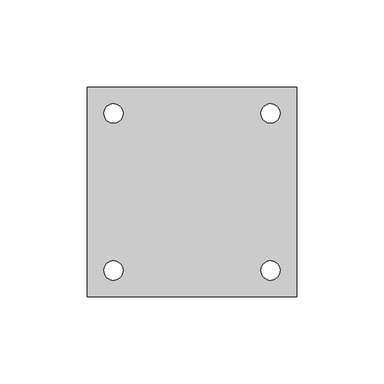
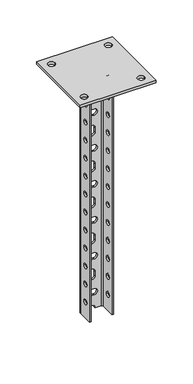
"""IFC4 building model written with IfcOpenShell, lengths in millimetres: proxy geometry, КМ Профиль_Универсальная потолочная стойка усиленная UPTU : UPTU400."""

from ifc_helpers import new_model, si_unit, point, frame, frame_2d, origin, place, context, project, spatial, polyline, circle_curve, trimmed, segment, composite_curve, outline, extrude, source, transform, mapped, element, save
from ifc_brep_helpers import plane_surface, cylinder_surface, revolved_surface, advanced_brep


def generic_models_a3f2ea63(model_context):
    return source(origin(), model_context, "Body", "SolidModel", [
        advanced_brep(
        [(19.0, -14.5, -4.0), (19.0, 10.0, -4.0), (14.5, 14.5, -4.0), (-14.5, 14.5, -4.0), (-19.0, 10.0, -4.0), (-19.0, -14.5, -4.0), (-16.5, -14.5, -4.0), (-16.5, 10.0, -4.0), (-14.5, 12.0, -4.0), (14.5, 12.0, -4.0), (16.5, 10.0, -4.0), (16.5, -14.5, -4.0), (19.0, 10.0, -404.0), (19.0, -14.5, -404.0), (16.5, -14.5, -404.0), (16.5, 10.0, -404.0), (14.5, 12.0, -404.0), (5.0, 12.0, -404.0), (5.0, 14.5, -404.0), (14.5, 14.5, -404.0), (-19.0, 10.0, -404.0), (-14.5, 14.5, -404.0), (-5.0, 14.5, -404.0), (-5.0, 12.0, -404.0), (-14.5, 12.0, -404.0), (-16.5, 10.0, -404.0), (-16.5, -14.5, -404.0), (-19.0, -14.5, -404.0), (19.0, -7.0, -47.0), (19.0, 1.0, -47.0), (19.0, -7.0, -77.0), (19.0, 1.0, -77.0), (19.0, -7.0, -107.0), (19.0, 1.0, -107.0), (19.0, -7.0, -137.0), (19.0, 1.0, -137.0), (19.0, -7.0, -167.0), (19.0, 1.0, -167.0), (19.0, -7.0, -197.0), (19.0, 1.0, -197.0), (19.0, -7.0, -227.0), (19.0, 1.0, -227.0), (19.0, -7.0, -257.0), (19.0, 1.0, -257.0), (19.0, -7.0, -287.0), (19.0, 1.0, -287.0), (19.0, -7.0, -317.0), (19.0, 1.0, -317.0), (19.0, -7.0, -347.0), (19.0, 1.0, -347.0), (19.0, -7.0, -377.0), (19.0, 1.0, -377.0), (19.0, -7.0, -17.0), (19.0, 1.0, -17.0), (5.0, 14.5, -403.5), (-5.0, 14.5, -403.5), (3.5, 14.5, -132.0), (-3.5, 14.5, -132.0), (-3.5, 14.5, -142.0), (3.5, 14.5, -142.0), (3.5, 14.5, -192.0), (-3.5, 14.5, -192.0), (-3.5, 14.5, -202.0), (3.5, 14.5, -202.0), (3.5, 14.5, -72.0), (-3.5, 14.5, -72.0), (-3.5, 14.5, -82.0), (3.5, 14.5, -82.0), (-5.0, 14.5, -103.5), (-5.0, 14.5, -110.5), (5.0, 14.5, -110.5), (5.0, 14.5, -103.5), (-5.0, 14.5, -163.5), (-5.0, 14.5, -170.5), (5.0, 14.5, -170.5), (5.0, 14.5, -163.5), (-5.0, 14.5, -223.5), (-5.0, 14.5, -230.5), (5.0, 14.5, -230.5), (5.0, 14.5, -223.5), (3.5, 14.5, -252.0), (-3.5, 14.5, -252.0), (-3.5, 14.5, -262.0), (3.5, 14.5, -262.0), (3.5, 14.5, -312.0), (-3.5, 14.5, -312.0), (-3.5, 14.5, -322.0), (3.5, 14.5, -322.0), (3.5, 14.5, -372.0), (-3.5, 14.5, -372.0), (-3.5, 14.5, -382.0), (3.5, 14.5, -382.0), (-5.0, 14.5, -283.5), (-5.0, 14.5, -290.5), (5.0, 14.5, -290.5), (5.0, 14.5, -283.5), (-5.0, 14.5, -343.5), (-5.0, 14.5, -350.5), (5.0, 14.5, -350.5), (5.0, 14.5, -343.5), (-5.0, 14.5, -43.5), (-5.0, 14.5, -50.5), (5.0, 14.5, -50.5), (5.0, 14.5, -43.5), (3.5, 14.5, -12.0), (-3.5, 14.5, -12.0), (-3.5, 14.5, -22.0), (3.5, 14.5, -22.0), (-19.0, -7.0, -17.0), (-19.0, 1.0, -17.0), (-19.0, -7.0, -47.0), (-19.0, 1.0, -47.0), (-19.0, -7.0, -77.0), (-19.0, 1.0, -77.0), (-19.0, -7.0, -107.0), (-19.0, 1.0, -107.0), (-19.0, -7.0, -137.0), (-19.0, 1.0, -137.0), (-19.0, -7.0, -167.0), (-19.0, 1.0, -167.0), (-19.0, -7.0, -197.0), (-19.0, 1.0, -197.0), (-19.0, -7.0, -227.0), (-19.0, 1.0, -227.0), (-19.0, -7.0, -257.0), (-19.0, 1.0, -257.0), (-19.0, -7.0, -287.0), (-19.0, 1.0, -287.0), (-19.0, -7.0, -317.0), (-19.0, 1.0, -317.0), (-19.0, -7.0, -347.0), (-19.0, 1.0, -347.0), (-19.0, -7.0, -377.0), (-19.0, 1.0, -377.0), (-16.5, 1.0, -17.0), (-16.5, -7.0, -17.0), (-16.5, 1.0, -47.0), (-16.5, -7.0, -47.0), (-16.5, 1.0, -77.0), (-16.5, -7.0, -77.0), (-16.5, 1.0, -107.0), (-16.5, -7.0, -107.0), (-16.5, 1.0, -137.0), (-16.5, -7.0, -137.0), (-16.5, 1.0, -167.0), (-16.5, -7.0, -167.0), (-16.5, 1.0, -197.0), (-16.5, -7.0, -197.0), (-16.5, 1.0, -227.0), (-16.5, -7.0, -227.0), (-16.5, 1.0, -257.0), (-16.5, -7.0, -257.0), (-16.5, 1.0, -287.0), (-16.5, -7.0, -287.0), (-16.5, 1.0, -317.0), (-16.5, -7.0, -317.0), (-16.5, 1.0, -347.0), (-16.5, -7.0, -347.0), (-16.5, 1.0, -377.0), (-16.5, -7.0, -377.0), (-5.0, 12.0, -403.5), (5.0, 12.0, -403.5), (-3.5, 12.0, -132.0), (3.5, 12.0, -132.0), (3.5, 12.0, -142.0), (-3.5, 12.0, -142.0), (-3.5, 12.0, -192.0), (3.5, 12.0, -192.0), (3.5, 12.0, -202.0), (-3.5, 12.0, -202.0), (-3.5, 12.0, -72.0), (3.5, 12.0, -72.0), (3.5, 12.0, -82.0), (-3.5, 12.0, -82.0), (-5.0, 12.0, -110.5), (-5.0, 12.0, -103.5), (5.0, 12.0, -103.5), (5.0, 12.0, -110.5), (-5.0, 12.0, -170.5), (-5.0, 12.0, -163.5), (5.0, 12.0, -163.5), (5.0, 12.0, -170.5), (-5.0, 12.0, -230.5), (-5.0, 12.0, -223.5), (5.0, 12.0, -223.5), (5.0, 12.0, -230.5), (-3.5, 12.0, -252.0), (3.5, 12.0, -252.0), (3.5, 12.0, -262.0), (-3.5, 12.0, -262.0), (-3.5, 12.0, -312.0), (3.5, 12.0, -312.0), (3.5, 12.0, -322.0), (-3.5, 12.0, -322.0), (-3.5, 12.0, -372.0), (3.5, 12.0, -372.0), (3.5, 12.0, -382.0), (-3.5, 12.0, -382.0), (-5.0, 12.0, -290.5), (-5.0, 12.0, -283.5), (5.0, 12.0, -283.5), (5.0, 12.0, -290.5), (-5.0, 12.0, -350.5), (-5.0, 12.0, -343.5), (5.0, 12.0, -343.5), (5.0, 12.0, -350.5), (-5.0, 12.0, -50.5), (-5.0, 12.0, -43.5), (5.0, 12.0, -43.5), (5.0, 12.0, -50.5), (-3.5, 12.0, -12.0), (3.5, 12.0, -12.0), (3.5, 12.0, -22.0), (-3.5, 12.0, -22.0), (16.5, 1.0, -47.0), (16.5, -7.0, -47.0), (16.5, 1.0, -77.0), (16.5, -7.0, -77.0), (16.5, 1.0, -107.0), (16.5, -7.0, -107.0), (16.5, 1.0, -137.0), (16.5, -7.0, -137.0), (16.5, 1.0, -167.0), (16.5, -7.0, -167.0), (16.5, 1.0, -197.0), (16.5, -7.0, -197.0), (16.5, 1.0, -227.0), (16.5, -7.0, -227.0), (16.5, 1.0, -257.0), (16.5, -7.0, -257.0), (16.5, 1.0, -287.0), (16.5, -7.0, -287.0), (16.5, 1.0, -317.0), (16.5, -7.0, -317.0), (16.5, 1.0, -347.0), (16.5, -7.0, -347.0), (16.5, 1.0, -377.0), (16.5, -7.0, -377.0), (16.5, 1.0, -17.0), (16.5, -7.0, -17.0)],
        [
            (0, 1),
            (1, 2, circle_curve(frame((14.5, 10.0, -4.0), z_axis=(0.0, 0.0, 1.0), x_axis=(1.0, 0.0, 0.0)), 4.5)),
            (2, 3),
            (3, 4, circle_curve(frame((-14.5, 10.0, -4.0), z_axis=(0.0, 0.0, 1.0), x_axis=(1.0, 0.0, 0.0)), 4.5)),
            (4, 5),
            (5, 6),
            (6, 7),
            (7, 8, circle_curve(frame((-14.5, 10.0, -4.0), z_axis=(0.0, 0.0, -1.0), x_axis=(1.0, 0.0, 0.0)), 2.0)),
            (8, 9),
            (9, 10, circle_curve(frame((14.5, 10.0, -4.0), z_axis=(0.0, 0.0, -1.0), x_axis=(1.0, 0.0, 0.0)), 2.0)),
            (10, 11),
            (11, 0),
            (12, 13),
            (13, 14),
            (14, 15),
            (15, 16, circle_curve(frame((14.5, 10.0, -404.0), z_axis=(0.0, 0.0, 1.0), x_axis=(1.0, 0.0, 0.0)), 2.0)),
            (16, 17),
            (17, 18),
            (18, 19),
            (19, 12, circle_curve(frame((14.5, 10.0, -404.0), z_axis=(0.0, 0.0, -1.0), x_axis=(1.0, 0.0, 0.0)), 4.5)),
            (20, 21, circle_curve(frame((-14.5, 10.0, -404.0), z_axis=(0.0, 0.0, -1.0), x_axis=(1.0, 0.0, 0.0)), 4.5)),
            (21, 22),
            (22, 23),
            (23, 24),
            (24, 25, circle_curve(frame((-14.5, 10.0, -404.0), z_axis=(0.0, 0.0, 1.0), x_axis=(1.0, 0.0, 0.0)), 2.0)),
            (25, 26),
            (26, 27),
            (27, 20),
            (0, 13),
            (12, 1),
            (28, 29, circle_curve(frame((19.0, -3.0, -47.0), z_axis=(-1.0, 0.0, 0.0), x_axis=(0.0, -1.0, 0.0)), 4.0)),
            (29, 28, circle_curve(frame((19.0, -3.0, -47.0), z_axis=(-1.0, 0.0, 0.0), x_axis=(0.0, -1.0, 0.0)), 4.0)),
            (30, 31, circle_curve(frame((19.0, -3.0, -77.0), z_axis=(-1.0, 0.0, 0.0), x_axis=(0.0, -1.0, 0.0)), 4.0)),
            (31, 30, circle_curve(frame((19.0, -3.0, -77.0), z_axis=(-1.0, 0.0, 0.0), x_axis=(0.0, -1.0, 0.0)), 4.0)),
            (32, 33, circle_curve(frame((19.0, -3.0, -107.0), z_axis=(-1.0, 0.0, 0.0), x_axis=(0.0, -1.0, 0.0)), 4.0)),
            (33, 32, circle_curve(frame((19.0, -3.0, -107.0), z_axis=(-1.0, 0.0, 0.0), x_axis=(0.0, -1.0, 0.0)), 4.0)),
            (34, 35, circle_curve(frame((19.0, -3.0, -137.0), z_axis=(-1.0, 0.0, 0.0), x_axis=(0.0, -1.0, 0.0)), 4.0)),
            (35, 34, circle_curve(frame((19.0, -3.0, -137.0), z_axis=(-1.0, 0.0, 0.0), x_axis=(0.0, -1.0, 0.0)), 4.0)),
            (36, 37, circle_curve(frame((19.0, -3.0, -167.0), z_axis=(-1.0, 0.0, 0.0), x_axis=(0.0, -1.0, 0.0)), 4.0)),
            (37, 36, circle_curve(frame((19.0, -3.0, -167.0), z_axis=(-1.0, 0.0, 0.0), x_axis=(0.0, -1.0, 0.0)), 4.0)),
            (38, 39, circle_curve(frame((19.0, -3.0, -197.0), z_axis=(-1.0, 0.0, 0.0), x_axis=(0.0, -1.0, 0.0)), 4.0)),
            (39, 38, circle_curve(frame((19.0, -3.0, -197.0), z_axis=(-1.0, 0.0, 0.0), x_axis=(0.0, -1.0, 0.0)), 4.0)),
            (40, 41, circle_curve(frame((19.0, -3.0, -227.0), z_axis=(-1.0, 0.0, 0.0), x_axis=(0.0, -1.0, 0.0)), 4.0)),
            (41, 40, circle_curve(frame((19.0, -3.0, -227.0), z_axis=(-1.0, 0.0, 0.0), x_axis=(0.0, -1.0, 0.0)), 4.0)),
            (42, 43, circle_curve(frame((19.0, -3.0, -257.0), z_axis=(-1.0, 0.0, 0.0), x_axis=(0.0, -1.0, 0.0)), 4.0)),
            (43, 42, circle_curve(frame((19.0, -3.0, -257.0), z_axis=(-1.0, 0.0, 0.0), x_axis=(0.0, -1.0, 0.0)), 4.0)),
            (44, 45, circle_curve(frame((19.0, -3.0, -287.0), z_axis=(-1.0, 0.0, 0.0), x_axis=(0.0, -1.0, 0.0)), 4.0)),
            (45, 44, circle_curve(frame((19.0, -3.0, -287.0), z_axis=(-1.0, 0.0, 0.0), x_axis=(0.0, -1.0, 0.0)), 4.0)),
            (46, 47, circle_curve(frame((19.0, -3.0, -317.0), z_axis=(-1.0, 0.0, 0.0), x_axis=(0.0, -1.0, 0.0)), 4.0)),
            (47, 46, circle_curve(frame((19.0, -3.0, -317.0), z_axis=(-1.0, 0.0, 0.0), x_axis=(0.0, -1.0, 0.0)), 4.0)),
            (48, 49, circle_curve(frame((19.0, -3.0, -347.0), z_axis=(-1.0, 0.0, 0.0), x_axis=(0.0, -1.0, 0.0)), 4.0)),
            (49, 48, circle_curve(frame((19.0, -3.0, -347.0), z_axis=(-1.0, 0.0, 0.0), x_axis=(0.0, -1.0, 0.0)), 4.0)),
            (50, 51, circle_curve(frame((19.0, -3.0, -377.0), z_axis=(-1.0, 0.0, 0.0), x_axis=(0.0, -1.0, 0.0)), 4.0)),
            (51, 50, circle_curve(frame((19.0, -3.0, -377.0), z_axis=(-1.0, 0.0, 0.0), x_axis=(0.0, -1.0, 0.0)), 4.0)),
            (52, 53, circle_curve(frame((19.0, -3.0, -17.0), z_axis=(-1.0, 0.0, 0.0), x_axis=(0.0, -1.0, 0.0)), 4.0)),
            (53, 52, circle_curve(frame((19.0, -3.0, -17.0), z_axis=(-1.0, 0.0, 0.0), x_axis=(0.0, -1.0, 0.0)), 4.0)),
            (19, 2),
            (18, 54),
            (54, 55, circle_curve(frame((0.0, 14.5, -403.5), z_axis=(0.0, -1.0, 0.0), x_axis=(0.0, 0.0, -1.0)), 5.0)),
            (55, 22),
            (21, 3),
            (56, 57),
            (57, 58, circle_curve(frame((-3.5, 14.5, -137.0), z_axis=(0.0, -1.0, 0.0), x_axis=(-1.0, 0.0, 0.0)), 5.0)),
            (58, 59),
            (59, 56, circle_curve(frame((3.5, 14.5, -137.0), z_axis=(0.0, -1.0, 0.0), x_axis=(-1.0, 0.0, 0.0)), 5.0)),
            (60, 61),
            (61, 62, circle_curve(frame((-3.5, 14.5, -197.0), z_axis=(0.0, -1.0, 0.0), x_axis=(-1.0, 0.0, 0.0)), 5.0)),
            (62, 63),
            (63, 60, circle_curve(frame((3.5, 14.5, -197.0), z_axis=(0.0, -1.0, 0.0), x_axis=(-1.0, 0.0, 0.0)), 5.0)),
            (64, 65),
            (65, 66, circle_curve(frame((-3.5, 14.5, -77.0), z_axis=(0.0, -1.0, 0.0), x_axis=(-1.0, 0.0, 0.0)), 5.0)),
            (66, 67),
            (67, 64, circle_curve(frame((3.5, 14.5, -77.0), z_axis=(0.0, -1.0, 0.0), x_axis=(-1.0, 0.0, 0.0)), 5.0)),
            (68, 69),
            (69, 70, circle_curve(frame((0.0, 14.5, -110.5), z_axis=(0.0, -1.0, 0.0), x_axis=(0.0, 0.0, -1.0)), 5.0)),
            (70, 71),
            (71, 68, circle_curve(frame((0.0, 14.5, -103.5), z_axis=(0.0, -1.0, 0.0), x_axis=(0.0, 0.0, -1.0)), 5.0)),
            (72, 73),
            (73, 74, circle_curve(frame((0.0, 14.5, -170.5), z_axis=(0.0, -1.0, 0.0), x_axis=(0.0, 0.0, -1.0)), 5.0)),
            (74, 75),
            (75, 72, circle_curve(frame((0.0, 14.5, -163.5), z_axis=(0.0, -1.0, 0.0), x_axis=(0.0, 0.0, -1.0)), 5.0)),
            (76, 77),
            (77, 78, circle_curve(frame((0.0, 14.5, -230.5), z_axis=(0.0, -1.0, 0.0), x_axis=(0.0, 0.0, -1.0)), 5.0)),
            (78, 79),
            (79, 76, circle_curve(frame((0.0, 14.5, -223.5), z_axis=(0.0, -1.0, 0.0), x_axis=(0.0, 0.0, -1.0)), 5.0)),
            (80, 81),
            (81, 82, circle_curve(frame((-3.5, 14.5, -257.0), z_axis=(0.0, -1.0, 0.0), x_axis=(-1.0, 0.0, 0.0)), 5.0)),
            (82, 83),
            (83, 80, circle_curve(frame((3.5, 14.5, -257.0), z_axis=(0.0, -1.0, 0.0), x_axis=(-1.0, 0.0, 0.0)), 5.0)),
            (84, 85),
            (85, 86, circle_curve(frame((-3.5, 14.5, -317.0), z_axis=(0.0, -1.0, 0.0), x_axis=(-1.0, 0.0, 0.0)), 5.0)),
            (86, 87),
            (87, 84, circle_curve(frame((3.5, 14.5, -317.0), z_axis=(0.0, -1.0, 0.0), x_axis=(-1.0, 0.0, 0.0)), 5.0)),
            (88, 89),
            (89, 90, circle_curve(frame((-3.5, 14.5, -377.0), z_axis=(0.0, -1.0, 0.0), x_axis=(-1.0, 0.0, 0.0)), 5.0)),
            (90, 91),
            (91, 88, circle_curve(frame((3.5, 14.5, -377.0), z_axis=(0.0, -1.0, 0.0), x_axis=(-1.0, 0.0, 0.0)), 5.0)),
            (92, 93),
            (93, 94, circle_curve(frame((0.0, 14.5, -290.5), z_axis=(0.0, -1.0, 0.0), x_axis=(0.0, 0.0, -1.0)), 5.0)),
            (94, 95),
            (95, 92, circle_curve(frame((0.0, 14.5, -283.5), z_axis=(0.0, -1.0, 0.0), x_axis=(0.0, 0.0, -1.0)), 5.0)),
            (96, 97),
            (97, 98, circle_curve(frame((0.0, 14.5, -350.5), z_axis=(0.0, -1.0, 0.0), x_axis=(0.0, 0.0, -1.0)), 5.0)),
            (98, 99),
            (99, 96, circle_curve(frame((0.0, 14.5, -343.5), z_axis=(0.0, -1.0, 0.0), x_axis=(0.0, 0.0, -1.0)), 5.0)),
            (100, 101),
            (101, 102, circle_curve(frame((0.0, 14.5, -50.5), z_axis=(0.0, -1.0, 0.0), x_axis=(0.0, 0.0, -1.0)), 5.0)),
            (102, 103),
            (103, 100, circle_curve(frame((0.0, 14.5, -43.5), z_axis=(0.0, -1.0, 0.0), x_axis=(0.0, 0.0, -1.0)), 5.0)),
            (104, 105),
            (105, 106, circle_curve(frame((-3.5, 14.5, -17.0), z_axis=(0.0, -1.0, 0.0), x_axis=(-1.0, 0.0, 0.0)), 5.0)),
            (106, 107),
            (107, 104, circle_curve(frame((3.5, 14.5, -17.0), z_axis=(0.0, -1.0, 0.0), x_axis=(-1.0, 0.0, 0.0)), 5.0)),
            (20, 4),
            (27, 5),
            (108, 109, circle_curve(frame((-19.0, -3.0, -17.0), z_axis=(1.0, 0.0, 0.0), x_axis=(0.0, -1.0, 0.0)), 4.0)),
            (109, 108, circle_curve(frame((-19.0, -3.0, -17.0), z_axis=(1.0, 0.0, 0.0), x_axis=(0.0, -1.0, 0.0)), 4.0)),
            (110, 111, circle_curve(frame((-19.0, -3.0, -47.0), z_axis=(1.0, 0.0, 0.0), x_axis=(0.0, -1.0, 0.0)), 4.0)),
            (111, 110, circle_curve(frame((-19.0, -3.0, -47.0), z_axis=(1.0, 0.0, 0.0), x_axis=(0.0, -1.0, 0.0)), 4.0)),
            (112, 113, circle_curve(frame((-19.0, -3.0, -77.0), z_axis=(1.0, 0.0, 0.0), x_axis=(0.0, -1.0, 0.0)), 4.0)),
            (113, 112, circle_curve(frame((-19.0, -3.0, -77.0), z_axis=(1.0, 0.0, 0.0), x_axis=(0.0, -1.0, 0.0)), 4.0)),
            (114, 115, circle_curve(frame((-19.0, -3.0, -107.0), z_axis=(1.0, 0.0, 0.0), x_axis=(0.0, -1.0, 0.0)), 4.0)),
            (115, 114, circle_curve(frame((-19.0, -3.0, -107.0), z_axis=(1.0, 0.0, 0.0), x_axis=(0.0, -1.0, 0.0)), 4.0)),
            (116, 117, circle_curve(frame((-19.0, -3.0, -137.0), z_axis=(1.0, 0.0, 0.0), x_axis=(0.0, -1.0, 0.0)), 4.0)),
            (117, 116, circle_curve(frame((-19.0, -3.0, -137.0), z_axis=(1.0, 0.0, 0.0), x_axis=(0.0, -1.0, 0.0)), 4.0)),
            (118, 119, circle_curve(frame((-19.0, -3.0, -167.0), z_axis=(1.0, 0.0, 0.0), x_axis=(0.0, -1.0, 0.0)), 4.0)),
            (119, 118, circle_curve(frame((-19.0, -3.0, -167.0), z_axis=(1.0, 0.0, 0.0), x_axis=(0.0, -1.0, 0.0)), 4.0)),
            (120, 121, circle_curve(frame((-19.0, -3.0, -197.0), z_axis=(1.0, 0.0, 0.0), x_axis=(0.0, -1.0, 0.0)), 4.0)),
            (121, 120, circle_curve(frame((-19.0, -3.0, -197.0), z_axis=(1.0, 0.0, 0.0), x_axis=(0.0, -1.0, 0.0)), 4.0)),
            (122, 123, circle_curve(frame((-19.0, -3.0, -227.0), z_axis=(1.0, 0.0, 0.0), x_axis=(0.0, -1.0, 0.0)), 4.0)),
            (123, 122, circle_curve(frame((-19.0, -3.0, -227.0), z_axis=(1.0, 0.0, 0.0), x_axis=(0.0, -1.0, 0.0)), 4.0)),
            (124, 125, circle_curve(frame((-19.0, -3.0, -257.0), z_axis=(1.0, 0.0, 0.0), x_axis=(0.0, -1.0, 0.0)), 4.0)),
            (125, 124, circle_curve(frame((-19.0, -3.0, -257.0), z_axis=(1.0, 0.0, 0.0), x_axis=(0.0, -1.0, 0.0)), 4.0)),
            (126, 127, circle_curve(frame((-19.0, -3.0, -287.0), z_axis=(1.0, 0.0, 0.0), x_axis=(0.0, -1.0, 0.0)), 4.0)),
            (127, 126, circle_curve(frame((-19.0, -3.0, -287.0), z_axis=(1.0, 0.0, 0.0), x_axis=(0.0, -1.0, 0.0)), 4.0)),
            (128, 129, circle_curve(frame((-19.0, -3.0, -317.0), z_axis=(1.0, 0.0, 0.0), x_axis=(0.0, -1.0, 0.0)), 4.0)),
            (129, 128, circle_curve(frame((-19.0, -3.0, -317.0), z_axis=(1.0, 0.0, 0.0), x_axis=(0.0, -1.0, 0.0)), 4.0)),
            (130, 131, circle_curve(frame((-19.0, -3.0, -347.0), z_axis=(1.0, 0.0, 0.0), x_axis=(0.0, -1.0, 0.0)), 4.0)),
            (131, 130, circle_curve(frame((-19.0, -3.0, -347.0), z_axis=(1.0, 0.0, 0.0), x_axis=(0.0, -1.0, 0.0)), 4.0)),
            (132, 133, circle_curve(frame((-19.0, -3.0, -377.0), z_axis=(1.0, 0.0, 0.0), x_axis=(0.0, -1.0, 0.0)), 4.0)),
            (133, 132, circle_curve(frame((-19.0, -3.0, -377.0), z_axis=(1.0, 0.0, 0.0), x_axis=(0.0, -1.0, 0.0)), 4.0)),
            (26, 6),
            (25, 7),
            (134, 135, circle_curve(frame((-16.5, -3.0, -17.0), z_axis=(-1.0, 0.0, 0.0), x_axis=(0.0, -1.0, 0.0)), 4.0)),
            (135, 134, circle_curve(frame((-16.5, -3.0, -17.0), z_axis=(-1.0, 0.0, 0.0), x_axis=(0.0, -1.0, 0.0)), 4.0)),
            (136, 137, circle_curve(frame((-16.5, -3.0, -47.0), z_axis=(-1.0, 0.0, 0.0), x_axis=(0.0, -1.0, 0.0)), 4.0)),
            (137, 136, circle_curve(frame((-16.5, -3.0, -47.0), z_axis=(-1.0, 0.0, 0.0), x_axis=(0.0, -1.0, 0.0)), 4.0)),
            (138, 139, circle_curve(frame((-16.5, -3.0, -77.0), z_axis=(-1.0, 0.0, 0.0), x_axis=(0.0, -1.0, 0.0)), 4.0)),
            (139, 138, circle_curve(frame((-16.5, -3.0, -77.0), z_axis=(-1.0, 0.0, 0.0), x_axis=(0.0, -1.0, 0.0)), 4.0)),
            (140, 141, circle_curve(frame((-16.5, -3.0, -107.0), z_axis=(-1.0, 0.0, 0.0), x_axis=(0.0, -1.0, 0.0)), 4.0)),
            (141, 140, circle_curve(frame((-16.5, -3.0, -107.0), z_axis=(-1.0, 0.0, 0.0), x_axis=(0.0, -1.0, 0.0)), 4.0)),
            (142, 143, circle_curve(frame((-16.5, -3.0, -137.0), z_axis=(-1.0, 0.0, 0.0), x_axis=(0.0, -1.0, 0.0)), 4.0)),
            (143, 142, circle_curve(frame((-16.5, -3.0, -137.0), z_axis=(-1.0, 0.0, 0.0), x_axis=(0.0, -1.0, 0.0)), 4.0)),
            (144, 145, circle_curve(frame((-16.5, -3.0, -167.0), z_axis=(-1.0, 0.0, 0.0), x_axis=(0.0, -1.0, 0.0)), 4.0)),
            (145, 144, circle_curve(frame((-16.5, -3.0, -167.0), z_axis=(-1.0, 0.0, 0.0), x_axis=(0.0, -1.0, 0.0)), 4.0)),
            (146, 147, circle_curve(frame((-16.5, -3.0, -197.0), z_axis=(-1.0, 0.0, 0.0), x_axis=(0.0, -1.0, 0.0)), 4.0)),
            (147, 146, circle_curve(frame((-16.5, -3.0, -197.0), z_axis=(-1.0, 0.0, 0.0), x_axis=(0.0, -1.0, 0.0)), 4.0)),
            (148, 149, circle_curve(frame((-16.5, -3.0, -227.0), z_axis=(-1.0, 0.0, 0.0), x_axis=(0.0, -1.0, 0.0)), 4.0)),
            (149, 148, circle_curve(frame((-16.5, -3.0, -227.0), z_axis=(-1.0, 0.0, 0.0), x_axis=(0.0, -1.0, 0.0)), 4.0)),
            (150, 151, circle_curve(frame((-16.5, -3.0, -257.0), z_axis=(-1.0, 0.0, 0.0), x_axis=(0.0, -1.0, 0.0)), 4.0)),
            (151, 150, circle_curve(frame((-16.5, -3.0, -257.0), z_axis=(-1.0, 0.0, 0.0), x_axis=(0.0, -1.0, 0.0)), 4.0)),
            (152, 153, circle_curve(frame((-16.5, -3.0, -287.0), z_axis=(-1.0, 0.0, 0.0), x_axis=(0.0, -1.0, 0.0)), 4.0)),
            (153, 152, circle_curve(frame((-16.5, -3.0, -287.0), z_axis=(-1.0, 0.0, 0.0), x_axis=(0.0, -1.0, 0.0)), 4.0)),
            (154, 155, circle_curve(frame((-16.5, -3.0, -317.0), z_axis=(-1.0, 0.0, 0.0), x_axis=(0.0, -1.0, 0.0)), 4.0)),
            (155, 154, circle_curve(frame((-16.5, -3.0, -317.0), z_axis=(-1.0, 0.0, 0.0), x_axis=(0.0, -1.0, 0.0)), 4.0)),
            (156, 157, circle_curve(frame((-16.5, -3.0, -347.0), z_axis=(-1.0, 0.0, 0.0), x_axis=(0.0, -1.0, 0.0)), 4.0)),
            (157, 156, circle_curve(frame((-16.5, -3.0, -347.0), z_axis=(-1.0, 0.0, 0.0), x_axis=(0.0, -1.0, 0.0)), 4.0)),
            (158, 159, circle_curve(frame((-16.5, -3.0, -377.0), z_axis=(-1.0, 0.0, 0.0), x_axis=(0.0, -1.0, 0.0)), 4.0)),
            (159, 158, circle_curve(frame((-16.5, -3.0, -377.0), z_axis=(-1.0, 0.0, 0.0), x_axis=(0.0, -1.0, 0.0)), 4.0)),
            (24, 8),
            (23, 160),
            (160, 161, circle_curve(frame((0.0, 12.0, -403.5), z_axis=(0.0, 1.0, 0.0), x_axis=(0.0, 0.0, -1.0)), 5.0)),
            (161, 17),
            (16, 9),
            (162, 163),
            (163, 164, circle_curve(frame((3.5, 12.0, -137.0), z_axis=(0.0, 1.0, 0.0), x_axis=(-1.0, 0.0, 0.0)), 5.0)),
            (164, 165),
            (165, 162, circle_curve(frame((-3.5, 12.0, -137.0), z_axis=(0.0, 1.0, 0.0), x_axis=(-1.0, 0.0, 0.0)), 5.0)),
            (166, 167),
            (167, 168, circle_curve(frame((3.5, 12.0, -197.0), z_axis=(0.0, 1.0, 0.0), x_axis=(-1.0, 0.0, 0.0)), 5.0)),
            (168, 169),
            (169, 166, circle_curve(frame((-3.5, 12.0, -197.0), z_axis=(0.0, 1.0, 0.0), x_axis=(-1.0, 0.0, 0.0)), 5.0)),
            (170, 171),
            (171, 172, circle_curve(frame((3.5, 12.0, -77.0), z_axis=(0.0, 1.0, 0.0), x_axis=(-1.0, 0.0, 0.0)), 5.0)),
            (172, 173),
            (173, 170, circle_curve(frame((-3.5, 12.0, -77.0), z_axis=(0.0, 1.0, 0.0), x_axis=(-1.0, 0.0, 0.0)), 5.0)),
            (174, 175),
            (175, 176, circle_curve(frame((0.0, 12.0, -103.5), z_axis=(0.0, 1.0, 0.0), x_axis=(0.0, 0.0, -1.0)), 5.0)),
            (176, 177),
            (177, 174, circle_curve(frame((0.0, 12.0, -110.5), z_axis=(0.0, 1.0, 0.0), x_axis=(0.0, 0.0, -1.0)), 5.0)),
            (178, 179),
            (179, 180, circle_curve(frame((0.0, 12.0, -163.5), z_axis=(0.0, 1.0, 0.0), x_axis=(0.0, 0.0, -1.0)), 5.0)),
            (180, 181),
            (181, 178, circle_curve(frame((0.0, 12.0, -170.5), z_axis=(0.0, 1.0, 0.0), x_axis=(0.0, 0.0, -1.0)), 5.0)),
            (182, 183),
            (183, 184, circle_curve(frame((0.0, 12.0, -223.5), z_axis=(0.0, 1.0, 0.0), x_axis=(0.0, 0.0, -1.0)), 5.0)),
            (184, 185),
            (185, 182, circle_curve(frame((0.0, 12.0, -230.5), z_axis=(0.0, 1.0, 0.0), x_axis=(0.0, 0.0, -1.0)), 5.0)),
            (186, 187),
            (187, 188, circle_curve(frame((3.5, 12.0, -257.0), z_axis=(0.0, 1.0, 0.0), x_axis=(-1.0, 0.0, 0.0)), 5.0)),
            (188, 189),
            (189, 186, circle_curve(frame((-3.5, 12.0, -257.0), z_axis=(0.0, 1.0, 0.0), x_axis=(-1.0, 0.0, 0.0)), 5.0)),
            (190, 191),
            (191, 192, circle_curve(frame((3.5, 12.0, -317.0), z_axis=(0.0, 1.0, 0.0), x_axis=(-1.0, 0.0, 0.0)), 5.0)),
            (192, 193),
            (193, 190, circle_curve(frame((-3.5, 12.0, -317.0), z_axis=(0.0, 1.0, 0.0), x_axis=(-1.0, 0.0, 0.0)), 5.0)),
            (194, 195),
            (195, 196, circle_curve(frame((3.5, 12.0, -377.0), z_axis=(0.0, 1.0, 0.0), x_axis=(-1.0, 0.0, 0.0)), 5.0)),
            (196, 197),
            (197, 194, circle_curve(frame((-3.5, 12.0, -377.0), z_axis=(0.0, 1.0, 0.0), x_axis=(-1.0, 0.0, 0.0)), 5.0)),
            (198, 199),
            (199, 200, circle_curve(frame((0.0, 12.0, -283.5), z_axis=(0.0, 1.0, 0.0), x_axis=(0.0, 0.0, -1.0)), 5.0)),
            (200, 201),
            (201, 198, circle_curve(frame((0.0, 12.0, -290.5), z_axis=(0.0, 1.0, 0.0), x_axis=(0.0, 0.0, -1.0)), 5.0)),
            (202, 203),
            (203, 204, circle_curve(frame((0.0, 12.0, -343.5), z_axis=(0.0, 1.0, 0.0), x_axis=(0.0, 0.0, -1.0)), 5.0)),
            (204, 205),
            (205, 202, circle_curve(frame((0.0, 12.0, -350.5), z_axis=(0.0, 1.0, 0.0), x_axis=(0.0, 0.0, -1.0)), 5.0)),
            (206, 207),
            (207, 208, circle_curve(frame((0.0, 12.0, -43.5), z_axis=(0.0, 1.0, 0.0), x_axis=(0.0, 0.0, -1.0)), 5.0)),
            (208, 209),
            (209, 206, circle_curve(frame((0.0, 12.0, -50.5), z_axis=(0.0, 1.0, 0.0), x_axis=(0.0, 0.0, -1.0)), 5.0)),
            (210, 211),
            (211, 212, circle_curve(frame((3.5, 12.0, -17.0), z_axis=(0.0, 1.0, 0.0), x_axis=(-1.0, 0.0, 0.0)), 5.0)),
            (212, 213),
            (213, 210, circle_curve(frame((-3.5, 12.0, -17.0), z_axis=(0.0, 1.0, 0.0), x_axis=(-1.0, 0.0, 0.0)), 5.0)),
            (15, 10),
            (14, 11),
            (214, 215, circle_curve(frame((16.5, -3.0, -47.0), z_axis=(1.0, 0.0, 0.0), x_axis=(0.0, -1.0, 0.0)), 4.0)),
            (215, 214, circle_curve(frame((16.5, -3.0, -47.0), z_axis=(1.0, 0.0, 0.0), x_axis=(0.0, -1.0, 0.0)), 4.0)),
            (216, 217, circle_curve(frame((16.5, -3.0, -77.0), z_axis=(1.0, 0.0, 0.0), x_axis=(0.0, -1.0, 0.0)), 4.0)),
            (217, 216, circle_curve(frame((16.5, -3.0, -77.0), z_axis=(1.0, 0.0, 0.0), x_axis=(0.0, -1.0, 0.0)), 4.0)),
            (218, 219, circle_curve(frame((16.5, -3.0, -107.0), z_axis=(1.0, 0.0, 0.0), x_axis=(0.0, -1.0, 0.0)), 4.0)),
            (219, 218, circle_curve(frame((16.5, -3.0, -107.0), z_axis=(1.0, 0.0, 0.0), x_axis=(0.0, -1.0, 0.0)), 4.0)),
            (220, 221, circle_curve(frame((16.5, -3.0, -137.0), z_axis=(1.0, 0.0, 0.0), x_axis=(0.0, -1.0, 0.0)), 4.0)),
            (221, 220, circle_curve(frame((16.5, -3.0, -137.0), z_axis=(1.0, 0.0, 0.0), x_axis=(0.0, -1.0, 0.0)), 4.0)),
            (222, 223, circle_curve(frame((16.5, -3.0, -167.0), z_axis=(1.0, 0.0, 0.0), x_axis=(0.0, -1.0, 0.0)), 4.0)),
            (223, 222, circle_curve(frame((16.5, -3.0, -167.0), z_axis=(1.0, 0.0, 0.0), x_axis=(0.0, -1.0, 0.0)), 4.0)),
            (224, 225, circle_curve(frame((16.5, -3.0, -197.0), z_axis=(1.0, 0.0, 0.0), x_axis=(0.0, -1.0, 0.0)), 4.0)),
            (225, 224, circle_curve(frame((16.5, -3.0, -197.0), z_axis=(1.0, 0.0, 0.0), x_axis=(0.0, -1.0, 0.0)), 4.0)),
            (226, 227, circle_curve(frame((16.5, -3.0, -227.0), z_axis=(1.0, 0.0, 0.0), x_axis=(0.0, -1.0, 0.0)), 4.0)),
            (227, 226, circle_curve(frame((16.5, -3.0, -227.0), z_axis=(1.0, 0.0, 0.0), x_axis=(0.0, -1.0, 0.0)), 4.0)),
            (228, 229, circle_curve(frame((16.5, -3.0, -257.0), z_axis=(1.0, 0.0, 0.0), x_axis=(0.0, -1.0, 0.0)), 4.0)),
            (229, 228, circle_curve(frame((16.5, -3.0, -257.0), z_axis=(1.0, 0.0, 0.0), x_axis=(0.0, -1.0, 0.0)), 4.0)),
            (230, 231, circle_curve(frame((16.5, -3.0, -287.0), z_axis=(1.0, 0.0, 0.0), x_axis=(0.0, -1.0, 0.0)), 4.0)),
            (231, 230, circle_curve(frame((16.5, -3.0, -287.0), z_axis=(1.0, 0.0, 0.0), x_axis=(0.0, -1.0, 0.0)), 4.0)),
            (232, 233, circle_curve(frame((16.5, -3.0, -317.0), z_axis=(1.0, 0.0, 0.0), x_axis=(0.0, -1.0, 0.0)), 4.0)),
            (233, 232, circle_curve(frame((16.5, -3.0, -317.0), z_axis=(1.0, 0.0, 0.0), x_axis=(0.0, -1.0, 0.0)), 4.0)),
            (234, 235, circle_curve(frame((16.5, -3.0, -347.0), z_axis=(1.0, 0.0, 0.0), x_axis=(0.0, -1.0, 0.0)), 4.0)),
            (235, 234, circle_curve(frame((16.5, -3.0, -347.0), z_axis=(1.0, 0.0, 0.0), x_axis=(0.0, -1.0, 0.0)), 4.0)),
            (236, 237, circle_curve(frame((16.5, -3.0, -377.0), z_axis=(1.0, 0.0, 0.0), x_axis=(0.0, -1.0, 0.0)), 4.0)),
            (237, 236, circle_curve(frame((16.5, -3.0, -377.0), z_axis=(1.0, 0.0, 0.0), x_axis=(0.0, -1.0, 0.0)), 4.0)),
            (238, 239, circle_curve(frame((16.5, -3.0, -17.0), z_axis=(1.0, 0.0, 0.0), x_axis=(0.0, -1.0, 0.0)), 4.0)),
            (239, 238, circle_curve(frame((16.5, -3.0, -17.0), z_axis=(1.0, 0.0, 0.0), x_axis=(0.0, -1.0, 0.0)), 4.0)),
            (56, 163),
            (162, 57),
            (59, 164),
            (58, 165),
            (60, 167),
            (166, 61),
            (63, 168),
            (62, 169),
            (64, 171),
            (170, 65),
            (67, 172),
            (66, 173),
            (68, 175),
            (174, 69),
            (71, 176),
            (70, 177),
            (72, 179),
            (178, 73),
            (75, 180),
            (74, 181),
            (76, 183),
            (182, 77),
            (79, 184),
            (78, 185),
            (108, 135),
            (134, 109),
            (28, 215),
            (214, 29),
            (110, 137),
            (136, 111),
            (30, 217),
            (216, 31),
            (112, 139),
            (138, 113),
            (32, 219),
            (218, 33),
            (114, 141),
            (140, 115),
            (34, 221),
            (220, 35),
            (116, 143),
            (142, 117),
            (36, 223),
            (222, 37),
            (118, 145),
            (144, 119),
            (38, 225),
            (224, 39),
            (120, 147),
            (146, 121),
            (40, 227),
            (226, 41),
            (122, 149),
            (148, 123),
            (80, 187),
            (186, 81),
            (83, 188),
            (82, 189),
            (84, 191),
            (190, 85),
            (87, 192),
            (86, 193),
            (88, 195),
            (194, 89),
            (91, 196),
            (90, 197),
            (92, 199),
            (198, 93),
            (95, 200),
            (94, 201),
            (96, 203),
            (202, 97),
            (99, 204),
            (98, 205),
            (55, 160),
            (54, 161),
            (42, 229),
            (228, 43),
            (124, 151),
            (150, 125),
            (44, 231),
            (230, 45),
            (126, 153),
            (152, 127),
            (46, 233),
            (232, 47),
            (128, 155),
            (154, 129),
            (48, 235),
            (234, 49),
            (130, 157),
            (156, 131),
            (50, 237),
            (236, 51),
            (132, 159),
            (158, 133),
            (52, 239),
            (238, 53),
            (100, 207),
            (206, 101),
            (103, 208),
            (102, 209),
            (104, 211),
            (210, 105),
            (107, 212),
            (106, 213),
        ],
        [
            plane_surface(frame((19.0, 10.0, -4.0), z_axis=(0.0, 0.0, 1.0), x_axis=(0.0, 1.0, 0.0))),
            plane_surface(frame((19.0, 10.0, -404.0), z_axis=(0.0, 0.0, -1.0), x_axis=(0.0, -1.0, 0.0))),
            plane_surface(frame((19.0, -14.5, -4.0), z_axis=(1.0, 0.0, 0.0), x_axis=(0.0, 0.0, -1.0))),
            cylinder_surface(frame((14.5, 10.0, -404.0), z_axis=(0.0, 0.0, 1.0), x_axis=(1.0, 0.0, 0.0)), 4.5),
            plane_surface(frame((14.5, 14.5, -4.0), z_axis=(0.0, 1.0, 0.0), x_axis=(0.0, 0.0, -1.0))),
            cylinder_surface(frame((-14.5, 10.0, -404.0), z_axis=(0.0, 0.0, 1.0), x_axis=(1.0, 0.0, 0.0)), 4.5),
            plane_surface(frame((-19.0, 10.0, -4.0), z_axis=(-1.0, 0.0, 0.0), x_axis=(0.0, 0.0, -1.0))),
            plane_surface(frame((-19.0, -14.5, -4.0), z_axis=(0.0, -1.0, 0.0), x_axis=(0.0, 0.0, -1.0))),
            plane_surface(frame((-16.5, -14.5, -4.0), z_axis=(1.0, 0.0, 0.0), x_axis=(0.0, 0.0, -1.0))),
            revolved_surface(polyline([(-12.5, 10.0, -404.0), (-12.5, 10.0, -4.0)]), (-14.5, 10.0, -404.0), (0.0, 0.0, -1.0)),
            plane_surface(frame((-14.5, 12.0, -4.0), z_axis=(0.0, -1.0, 0.0), x_axis=(0.0, 0.0, -1.0))),
            revolved_surface(polyline([(16.5, 10.0, -404.0), (16.5, 10.0, -4.0)]), (14.5, 10.0, -404.0), (0.0, 0.0, -1.0)),
            plane_surface(frame((16.5, 10.0, -4.0), z_axis=(-1.0, 0.0, 0.0), x_axis=(0.0, 0.0, -1.0))),
            plane_surface(frame((16.5, -14.5, -4.0), z_axis=(0.0, -1.0, 0.0), x_axis=(0.0, 0.0, -1.0))),
            plane_surface(frame((-3.5, 14.5, -132.0), z_axis=(0.0, 0.0, -1.0), x_axis=(0.0, -1.0, 0.0))),
            revolved_surface(polyline([(-1.5, 14.5, -137.0), (-1.5, 12.0, -137.0)]), (3.5, 12.0, -137.0), (0.0, 1.0, 0.0)),
            plane_surface(frame((3.5, 14.5, -142.0), z_axis=(0.0, 0.0, 1.0), x_axis=(0.0, -1.0, 0.0))),
            revolved_surface(polyline([(-8.5, 14.5, -137.0), (-8.5, 12.0, -137.0)]), (-3.5, 12.0, -137.0), (0.0, 1.0, 0.0)),
            plane_surface(frame((-3.5, 14.5, -192.0), z_axis=(0.0, 0.0, -1.0), x_axis=(0.0, -1.0, 0.0))),
            revolved_surface(polyline([(-1.5, 14.5, -197.0), (-1.5, 12.0, -197.0)]), (3.5, 12.0, -197.0), (0.0, 1.0, 0.0)),
            plane_surface(frame((3.5, 14.5, -202.0), z_axis=(0.0, 0.0, 1.0), x_axis=(0.0, -1.0, 0.0))),
            revolved_surface(polyline([(-8.5, 14.5, -197.0), (-8.5, 12.0, -197.0)]), (-3.5, 12.0, -197.0), (0.0, 1.0, 0.0)),
            plane_surface(frame((-3.5, 14.5, -72.0), z_axis=(0.0, 0.0, -1.0), x_axis=(0.0, -1.0, 0.0))),
            revolved_surface(polyline([(-1.5, 14.5, -77.0), (-1.5, 12.0, -77.0)]), (3.5, 12.0, -77.0), (0.0, 1.0, 0.0)),
            plane_surface(frame((3.5, 14.5, -82.0), z_axis=(0.0, 0.0, 1.0), x_axis=(0.0, -1.0, 0.0))),
            revolved_surface(polyline([(-8.5, 14.5, -77.0), (-8.5, 12.0, -77.0)]), (-3.5, 12.0, -77.0), (0.0, 1.0, 0.0)),
            plane_surface(frame((-5.0, 14.5, -110.5), z_axis=(1.0, 0.0, 0.0), x_axis=(0.0, -1.0, 0.0))),
            revolved_surface(polyline([(0.0, 14.5, -108.5), (0.0, 12.0, -108.5)]), (0.0, 12.0, -103.5), (0.0, 1.0, 0.0)),
            plane_surface(frame((5.0, 14.5, -103.5), z_axis=(-1.0, 0.0, 0.0), x_axis=(0.0, -1.0, 0.0))),
            revolved_surface(polyline([(0.0, 14.5, -115.5), (0.0, 12.0, -115.5)]), (0.0, 12.0, -110.5), (0.0, 1.0, 0.0)),
            plane_surface(frame((-5.0, 14.5, -170.5), z_axis=(1.0, 0.0, 0.0), x_axis=(0.0, -1.0, 0.0))),
            revolved_surface(polyline([(0.0, 14.5, -168.5), (0.0, 12.0, -168.5)]), (0.0, 12.0, -163.5), (0.0, 1.0, 0.0)),
            plane_surface(frame((5.0, 14.5, -163.5), z_axis=(-1.0, 0.0, 0.0), x_axis=(0.0, -1.0, 0.0))),
            revolved_surface(polyline([(0.0, 14.5, -175.5), (0.0, 12.0, -175.5)]), (0.0, 12.0, -170.5), (0.0, 1.0, 0.0)),
            plane_surface(frame((-5.0, 14.5, -230.5), z_axis=(1.0, 0.0, 0.0), x_axis=(0.0, -1.0, 0.0))),
            revolved_surface(polyline([(0.0, 14.5, -228.5), (0.0, 12.0, -228.5)]), (0.0, 12.0, -223.5), (0.0, 1.0, 0.0)),
            plane_surface(frame((5.0, 14.5, -223.5), z_axis=(-1.0, 0.0, 0.0), x_axis=(0.0, -1.0, 0.0))),
            revolved_surface(polyline([(0.0, 14.5, -235.5), (0.0, 12.0, -235.5)]), (0.0, 12.0, -230.5), (0.0, 1.0, 0.0)),
            revolved_surface(polyline([(-19.0, -7.0, -17.0), (-16.5, -7.0, -17.0)]), (-16.5, -3.0, -17.0), (-1.0, 0.0, 0.0)),
            revolved_surface(polyline([(19.0, -7.0, -47.0), (16.5, -7.0, -47.0)]), (16.5, -3.0, -47.0), (1.0, 0.0, 0.0)),
            revolved_surface(polyline([(-19.0, -7.0, -47.0), (-16.5, -7.0, -47.0)]), (-16.5, -3.0, -47.0), (-1.0, 0.0, 0.0)),
            revolved_surface(polyline([(19.0, -7.0, -77.0), (16.5, -7.0, -77.0)]), (16.5, -3.0, -77.0), (1.0, 0.0, 0.0)),
            revolved_surface(polyline([(-19.0, -7.0, -77.0), (-16.5, -7.0, -77.0)]), (-16.5, -3.0, -77.0), (-1.0, 0.0, 0.0)),
            revolved_surface(polyline([(19.0, -7.0, -107.0), (16.5, -7.0, -107.0)]), (16.5, -3.0, -107.0), (1.0, 0.0, 0.0)),
            revolved_surface(polyline([(-19.0, -7.0, -107.0), (-16.5, -7.0, -107.0)]), (-16.5, -3.0, -107.0), (-1.0, 0.0, 0.0)),
            revolved_surface(polyline([(19.0, -7.0, -137.0), (16.5, -7.0, -137.0)]), (16.5, -3.0, -137.0), (1.0, 0.0, 0.0)),
            revolved_surface(polyline([(-19.0, -7.0, -137.0), (-16.5, -7.0, -137.0)]), (-16.5, -3.0, -137.0), (-1.0, 0.0, 0.0)),
            revolved_surface(polyline([(19.0, -7.0, -167.0), (16.5, -7.0, -167.0)]), (16.5, -3.0, -167.0), (1.0, 0.0, 0.0)),
            revolved_surface(polyline([(-19.0, -7.0, -167.0), (-16.5, -7.0, -167.0)]), (-16.5, -3.0, -167.0), (-1.0, 0.0, 0.0)),
            revolved_surface(polyline([(19.0, -7.0, -197.0), (16.5, -7.0, -197.0)]), (16.5, -3.0, -197.0), (1.0, 0.0, 0.0)),
            revolved_surface(polyline([(-19.0, -7.0, -197.0), (-16.5, -7.0, -197.0)]), (-16.5, -3.0, -197.0), (-1.0, 0.0, 0.0)),
            revolved_surface(polyline([(19.0, -7.0, -227.0), (16.5, -7.0, -227.0)]), (16.5, -3.0, -227.0), (1.0, 0.0, 0.0)),
            revolved_surface(polyline([(-19.0, -7.0, -227.0), (-16.5, -7.0, -227.0)]), (-16.5, -3.0, -227.0), (-1.0, 0.0, 0.0)),
            plane_surface(frame((-3.5, 14.5, -252.0), z_axis=(0.0, 0.0, -1.0), x_axis=(0.0, -1.0, 0.0))),
            revolved_surface(polyline([(-1.5, 14.5, -257.0), (-1.5, 12.0, -257.0)]), (3.5, 12.0, -257.0), (0.0, 1.0, 0.0)),
            plane_surface(frame((3.5, 14.5, -262.0), z_axis=(0.0, 0.0, 1.0), x_axis=(0.0, -1.0, 0.0))),
            revolved_surface(polyline([(-8.5, 14.5, -257.0), (-8.5, 12.0, -257.0)]), (-3.5, 12.0, -257.0), (0.0, 1.0, 0.0)),
            plane_surface(frame((-3.5, 14.5, -312.0), z_axis=(0.0, 0.0, -1.0), x_axis=(0.0, -1.0, 0.0))),
            revolved_surface(polyline([(-1.5, 14.5, -317.0), (-1.5, 12.0, -317.0)]), (3.5, 12.0, -317.0), (0.0, 1.0, 0.0)),
            plane_surface(frame((3.5, 14.5, -322.0), z_axis=(0.0, 0.0, 1.0), x_axis=(0.0, -1.0, 0.0))),
            revolved_surface(polyline([(-8.5, 14.5, -317.0), (-8.5, 12.0, -317.0)]), (-3.5, 12.0, -317.0), (0.0, 1.0, 0.0)),
            plane_surface(frame((-3.5, 14.5, -372.0), z_axis=(0.0, 0.0, -1.0), x_axis=(0.0, -1.0, 0.0))),
            revolved_surface(polyline([(-1.5, 14.5, -377.0), (-1.5, 12.0, -377.0)]), (3.5, 12.0, -377.0), (0.0, 1.0, 0.0)),
            plane_surface(frame((3.5, 14.5, -382.0), z_axis=(0.0, 0.0, 1.0), x_axis=(0.0, -1.0, 0.0))),
            revolved_surface(polyline([(-8.5, 14.5, -377.0), (-8.5, 12.0, -377.0)]), (-3.5, 12.0, -377.0), (0.0, 1.0, 0.0)),
            plane_surface(frame((-5.0, 14.5, -290.5), z_axis=(1.0, 0.0, 0.0), x_axis=(0.0, -1.0, 0.0))),
            revolved_surface(polyline([(0.0, 14.5, -288.5), (0.0, 12.0, -288.5)]), (0.0, 12.0, -283.5), (0.0, 1.0, 0.0)),
            plane_surface(frame((5.0, 14.5, -283.5), z_axis=(-1.0, 0.0, 0.0), x_axis=(0.0, -1.0, 0.0))),
            revolved_surface(polyline([(0.0, 14.5, -295.5), (0.0, 12.0, -295.5)]), (0.0, 12.0, -290.5), (0.0, 1.0, 0.0)),
            plane_surface(frame((-5.0, 14.5, -350.5), z_axis=(1.0, 0.0, 0.0), x_axis=(0.0, -1.0, 0.0))),
            revolved_surface(polyline([(0.0, 14.5, -348.5), (0.0, 12.0, -348.5)]), (0.0, 12.0, -343.5), (0.0, 1.0, 0.0)),
            plane_surface(frame((5.0, 14.5, -343.5), z_axis=(-1.0, 0.0, 0.0), x_axis=(0.0, -1.0, 0.0))),
            revolved_surface(polyline([(0.0, 14.5, -355.5), (0.0, 12.0, -355.5)]), (0.0, 12.0, -350.5), (0.0, 1.0, 0.0)),
            plane_surface(frame((-5.0, 14.5, -410.5), z_axis=(1.0, 0.0, 0.0), x_axis=(0.0, -1.0, 0.0))),
            revolved_surface(polyline([(0.0, 14.5, -408.5), (0.0, 12.0, -408.5)]), (0.0, 12.0, -403.5), (0.0, 1.0, 0.0)),
            plane_surface(frame((5.0, 14.5, -403.5), z_axis=(-1.0, 0.0, 0.0), x_axis=(0.0, -1.0, 0.0))),
            revolved_surface(polyline([(19.0, -7.0, -257.0), (16.5, -7.0, -257.0)]), (16.5, -3.0, -257.0), (1.0, 0.0, 0.0)),
            revolved_surface(polyline([(-19.0, -7.0, -257.0), (-16.5, -7.0, -257.0)]), (-16.5, -3.0, -257.0), (-1.0, 0.0, 0.0)),
            revolved_surface(polyline([(19.0, -7.0, -287.0), (16.5, -7.0, -287.0)]), (16.5, -3.0, -287.0), (1.0, 0.0, 0.0)),
            revolved_surface(polyline([(-19.0, -7.0, -287.0), (-16.5, -7.0, -287.0)]), (-16.5, -3.0, -287.0), (-1.0, 0.0, 0.0)),
            revolved_surface(polyline([(19.0, -7.0, -317.0), (16.5, -7.0, -317.0)]), (16.5, -3.0, -317.0), (1.0, 0.0, 0.0)),
            revolved_surface(polyline([(-19.0, -7.0, -317.0), (-16.5, -7.0, -317.0)]), (-16.5, -3.0, -317.0), (-1.0, 0.0, 0.0)),
            revolved_surface(polyline([(19.0, -7.0, -347.0), (16.5, -7.0, -347.0)]), (16.5, -3.0, -347.0), (1.0, 0.0, 0.0)),
            revolved_surface(polyline([(-19.0, -7.0, -347.0), (-16.5, -7.0, -347.0)]), (-16.5, -3.0, -347.0), (-1.0, 0.0, 0.0)),
            revolved_surface(polyline([(19.0, -7.0, -377.0), (16.5, -7.0, -377.0)]), (16.5, -3.0, -377.0), (1.0, 0.0, 0.0)),
            revolved_surface(polyline([(-19.0, -7.0, -377.0), (-16.5, -7.0, -377.0)]), (-16.5, -3.0, -377.0), (-1.0, 0.0, 0.0)),
            revolved_surface(polyline([(19.0, -7.0, -17.0), (16.5, -7.0, -17.0)]), (16.5, -3.0, -17.0), (1.0, 0.0, 0.0)),
            plane_surface(frame((-5.0, 14.5, -50.5), z_axis=(1.0, 0.0, 0.0), x_axis=(0.0, -1.0, 0.0))),
            revolved_surface(polyline([(0.0, 14.5, -48.5), (0.0, 12.0, -48.5)]), (0.0, 12.0, -43.5), (0.0, 1.0, 0.0)),
            plane_surface(frame((5.0, 14.5, -43.5), z_axis=(-1.0, 0.0, 0.0), x_axis=(0.0, -1.0, 0.0))),
            revolved_surface(polyline([(0.0, 14.5, -55.5), (0.0, 12.0, -55.5)]), (0.0, 12.0, -50.5), (0.0, 1.0, 0.0)),
            plane_surface(frame((-3.5, 14.5, -12.0), z_axis=(0.0, 0.0, -1.0), x_axis=(0.0, -1.0, 0.0))),
            revolved_surface(polyline([(-1.5, 14.5, -17.0), (-1.5, 12.0, -17.0)]), (3.5, 12.0, -17.0), (0.0, 1.0, 0.0)),
            plane_surface(frame((3.5, 14.5, -22.0), z_axis=(0.0, 0.0, 1.0), x_axis=(0.0, -1.0, 0.0))),
            revolved_surface(polyline([(-8.5, 14.5, -17.0), (-8.5, 12.0, -17.0)]), (-3.5, 12.0, -17.0), (0.0, 1.0, 0.0)),
        ],
        [
            (0, [[1, 2, 3, 4, 5, 6, 7, 8, 9, 10, 11, 12]]),
            (1, [[13, 14, 15, 16, 17, 18, 19, 20]]),
            (1, [[21, 22, 23, 24, 25, 26, 27, 28]]),
            (2, [[-1, 29, -13, 30], [31, 32], [33, 34], [35, 36], [37, 38], [39, 40], [41, 42], [43, 44], [45, 46], [47, 48], [49, 50], [51, 52], [53, 54], [55, 56]]),
            (3, [[-2, -30, -20, 57]]),
            (4, [[-3, -57, -19, 58, 59, 60, -22, 61], [62, 63, 64, 65], [66, 67, 68, 69], [70, 71, 72, 73], [74, 75, 76, 77], [78, 79, 80, 81], [82, 83, 84, 85], [86, 87, 88, 89], [90, 91, 92, 93], [94, 95, 96, 97], [98, 99, 100, 101], [102, 103, 104, 105], [106, 107, 108, 109], [110, 111, 112, 113]]),
            (5, [[-4, -61, -21, 114]]),
            (6, [[-5, -114, -28, 115], [116, 117], [118, 119], [120, 121], [122, 123], [124, 125], [126, 127], [128, 129], [130, 131], [132, 133], [134, 135], [136, 137], [138, 139], [140, 141]]),
            (7, [[-6, -115, -27, 142]]),
            (8, [[-7, -142, -26, 143], [144, 145], [146, 147], [148, 149], [150, 151], [152, 153], [154, 155], [156, 157], [158, 159], [160, 161], [162, 163], [164, 165], [166, 167], [168, 169]]),
            (9, [[-8, -143, -25, 170]]),
            (10, [[-9, -170, -24, 171, 172, 173, -17, 174], [175, 176, 177, 178], [179, 180, 181, 182], [183, 184, 185, 186], [187, 188, 189, 190], [191, 192, 193, 194], [195, 196, 197, 198], [199, 200, 201, 202], [203, 204, 205, 206], [207, 208, 209, 210], [211, 212, 213, 214], [215, 216, 217, 218], [219, 220, 221, 222], [223, 224, 225, 226]]),
            (11, [[-10, -174, -16, 227]]),
            (12, [[-11, -227, -15, 228], [229, 230], [231, 232], [233, 234], [235, 236], [237, 238], [239, 240], [241, 242], [243, 244], [245, 246], [247, 248], [249, 250], [251, 252], [253, 254]]),
            (13, [[-12, -228, -14, -29]]),
            (14, [[255, -175, 256, -62]]),
            (15, [[-255, -65, 257, -176]]),
            (16, [[-257, -64, 258, -177]]),
            (17, [[-256, -178, -258, -63]]),
            (18, [[259, -179, 260, -66]]),
            (19, [[-259, -69, 261, -180]]),
            (20, [[-261, -68, 262, -181]]),
            (21, [[-260, -182, -262, -67]]),
            (22, [[263, -183, 264, -70]]),
            (23, [[-263, -73, 265, -184]]),
            (24, [[-265, -72, 266, -185]]),
            (25, [[-264, -186, -266, -71]]),
            (26, [[267, -187, 268, -74]]),
            (27, [[-267, -77, 269, -188]]),
            (28, [[-269, -76, 270, -189]]),
            (29, [[-268, -190, -270, -75]]),
            (30, [[271, -191, 272, -78]]),
            (31, [[-271, -81, 273, -192]]),
            (32, [[-273, -80, 274, -193]]),
            (33, [[-272, -194, -274, -79]]),
            (34, [[275, -195, 276, -82]]),
            (35, [[-275, -85, 277, -196]]),
            (36, [[-277, -84, 278, -197]]),
            (37, [[-276, -198, -278, -83]]),
            (38, [[279, -144, 280, -116]]),
            (38, [[-279, -117, -280, -145]]),
            (39, [[281, -229, 282, -31]]),
            (39, [[-281, -32, -282, -230]]),
            (40, [[283, -146, 284, -118]]),
            (40, [[-283, -119, -284, -147]]),
            (41, [[285, -231, 286, -33]]),
            (41, [[-285, -34, -286, -232]]),
            (42, [[287, -148, 288, -120]]),
            (42, [[-287, -121, -288, -149]]),
            (43, [[289, -233, 290, -35]]),
            (43, [[-289, -36, -290, -234]]),
            (44, [[291, -150, 292, -122]]),
            (44, [[-291, -123, -292, -151]]),
            (45, [[293, -235, 294, -37]]),
            (45, [[-293, -38, -294, -236]]),
            (46, [[295, -152, 296, -124]]),
            (46, [[-295, -125, -296, -153]]),
            (47, [[297, -237, 298, -39]]),
            (47, [[-297, -40, -298, -238]]),
            (48, [[299, -154, 300, -126]]),
            (48, [[-299, -127, -300, -155]]),
            (49, [[301, -239, 302, -41]]),
            (49, [[-301, -42, -302, -240]]),
            (50, [[303, -156, 304, -128]]),
            (50, [[-303, -129, -304, -157]]),
            (51, [[305, -241, 306, -43]]),
            (51, [[-305, -44, -306, -242]]),
            (52, [[307, -158, 308, -130]]),
            (52, [[-307, -131, -308, -159]]),
            (53, [[309, -199, 310, -86]]),
            (54, [[-309, -89, 311, -200]]),
            (55, [[-311, -88, 312, -201]]),
            (56, [[-310, -202, -312, -87]]),
            (57, [[313, -203, 314, -90]]),
            (58, [[-313, -93, 315, -204]]),
            (59, [[-315, -92, 316, -205]]),
            (60, [[-314, -206, -316, -91]]),
            (61, [[317, -207, 318, -94]]),
            (62, [[-317, -97, 319, -208]]),
            (63, [[-319, -96, 320, -209]]),
            (64, [[-318, -210, -320, -95]]),
            (65, [[321, -211, 322, -98]]),
            (66, [[-321, -101, 323, -212]]),
            (67, [[-323, -100, 324, -213]]),
            (68, [[-322, -214, -324, -99]]),
            (69, [[325, -215, 326, -102]]),
            (70, [[-325, -105, 327, -216]]),
            (71, [[-327, -104, 328, -217]]),
            (72, [[-326, -218, -328, -103]]),
            (73, [[329, -171, -23, -60]]),
            (74, [[-329, -59, 330, -172]]),
            (75, [[-330, -58, -18, -173]]),
            (76, [[331, -243, 332, -45]]),
            (76, [[-331, -46, -332, -244]]),
            (77, [[333, -160, 334, -132]]),
            (77, [[-333, -133, -334, -161]]),
            (78, [[335, -245, 336, -47]]),
            (78, [[-335, -48, -336, -246]]),
            (79, [[337, -162, 338, -134]]),
            (79, [[-337, -135, -338, -163]]),
            (80, [[339, -247, 340, -49]]),
            (80, [[-339, -50, -340, -248]]),
            (81, [[341, -164, 342, -136]]),
            (81, [[-341, -137, -342, -165]]),
            (82, [[343, -249, 344, -51]]),
            (82, [[-343, -52, -344, -250]]),
            (83, [[345, -166, 346, -138]]),
            (83, [[-345, -139, -346, -167]]),
            (84, [[347, -251, 348, -53]]),
            (84, [[-347, -54, -348, -252]]),
            (85, [[349, -168, 350, -140]]),
            (85, [[-349, -141, -350, -169]]),
            (86, [[351, -253, 352, -55]]),
            (86, [[-351, -56, -352, -254]]),
            (87, [[353, -219, 354, -106]]),
            (88, [[-353, -109, 355, -220]]),
            (89, [[-355, -108, 356, -221]]),
            (90, [[-354, -222, -356, -107]]),
            (91, [[357, -223, 358, -110]]),
            (92, [[-357, -113, 359, -224]]),
            (93, [[-359, -112, 360, -225]]),
            (94, [[-358, -226, -360, -111]]),
        ],
    ),
        extrude(outline(polyline([(-60.0, 60.0), (60.0, 60.0), (60.0, -60.0), (-60.0, -60.0), (-60.0, 60.0)]), holes=[composite_curve([segment(trimmed(circle_curve(frame_2d((-45.0, 45.0)), 5.5), [point((-50.5, 45.0))], [point((-39.5, 45.0))], True, "CARTESIAN"), True, "CONTINUOUS"), segment(trimmed(circle_curve(frame_2d((-45.0, 45.0)), 5.5), [point((-39.5, 45.0))], [point((-50.5, 45.0))], True, "CARTESIAN"), True, "CONTINUOUS")], self_intersect=False), composite_curve([segment(trimmed(circle_curve(frame_2d((45.0, 45.0)), 5.5), [point((39.5, 45.0))], [point((50.5, 45.0))], True, "CARTESIAN"), True, "CONTINUOUS"), segment(trimmed(circle_curve(frame_2d((45.0, 45.0)), 5.5), [point((50.5, 45.0))], [point((39.5, 45.0))], True, "CARTESIAN"), True, "CONTINUOUS")], self_intersect=False), composite_curve([segment(trimmed(circle_curve(frame_2d((45.0, -45.0)), 5.5), [point((39.5, -45.0))], [point((50.5, -45.0))], True, "CARTESIAN"), True, "CONTINUOUS"), segment(trimmed(circle_curve(frame_2d((45.0, -45.0)), 5.5), [point((50.5, -45.0))], [point((39.5, -45.0))], True, "CARTESIAN"), True, "CONTINUOUS")], self_intersect=False), composite_curve([segment(trimmed(circle_curve(frame_2d((-45.0, -45.0)), 5.5), [point((-50.5, -45.0))], [point((-39.5, -45.0))], True, "CARTESIAN"), True, "CONTINUOUS"), segment(trimmed(circle_curve(frame_2d((-45.0, -45.0)), 5.5), [point((-39.5, -45.0))], [point((-50.5, -45.0))], True, "CARTESIAN"), True, "CONTINUOUS")], self_intersect=False)]), frame((0.0, 0.0, -4.0), z_axis=(0.0, 0.0, 1.0), x_axis=(1.0, 0.0, 0.0)), (0.0, 0.0, 1.0), 4.0),
    ])


if __name__ == "__main__":
    model = new_model("IFC4")
    model_context = context("Model", 3, world=origin())
    ifc_project = project(units=[si_unit("LENGTHUNIT", "METRE", prefix="MILLI")], contexts=[model_context])
    site = spatial("IfcSite", under=ifc_project)
    building = spatial("IfcBuilding", under=site)
    placement = place(None, origin())
    generic_models_shape = generic_models_a3f2ea63(model_context)
    element("IfcBuildingElementProxy", 1, Name="КМ Профиль_Универсальная потолочная стойка усиленная UPTU : UPTU400", ObjectType="КМ Профиль_Универсальная потолочная стойка усиленная UPTU : UPTU400", at=placement, inside=building, context=model_context, shape_type="MappedRepresentation", body=[
        mapped(generic_models_shape, transform((0.0, 0.0, 0.0), x_axis=(1.0, 0.0, 0.0), y_axis=(0.0, 1.0, 0.0), z_axis=(0.0, 0.0, 1.0))),
    ])
    save(model, "model.ifc")
